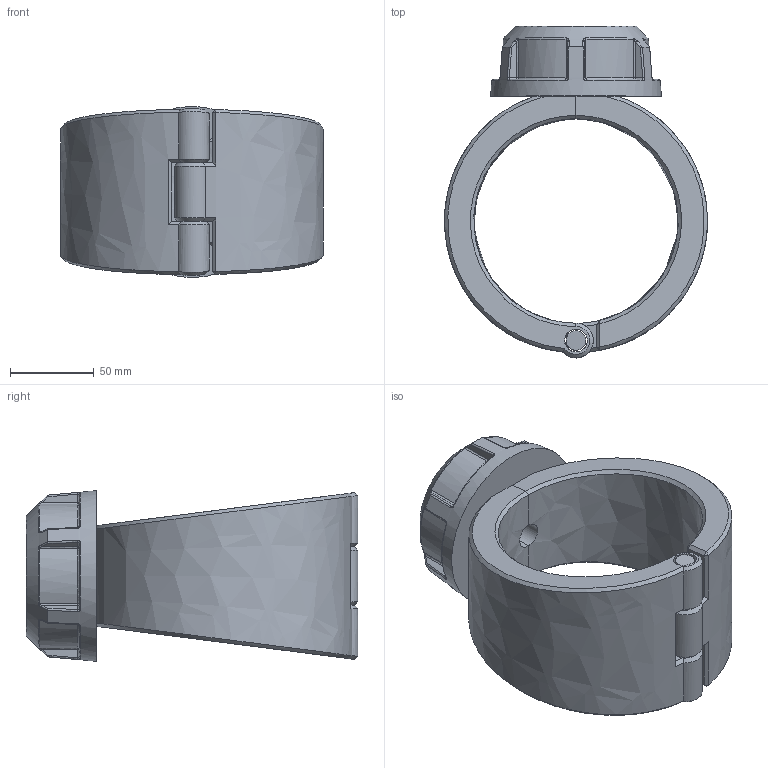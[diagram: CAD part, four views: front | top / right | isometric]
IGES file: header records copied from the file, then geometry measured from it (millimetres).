
Global section: file name: 163000122010; native system: Autodesk Inventor 2019; preprocessor: unknown; author: comp2; date: 20220203.115008; units: millimetre
Bounding box: 156.99 x 198 x 101.86 mm (x, y, z)
Volume: 827723.5 mm3; surface area: 125291.4 mm2
Topology: 4 solids, 4 shells, 203 faces, 486 edges, 293 vertices
Faces by surface type: bspline 203
